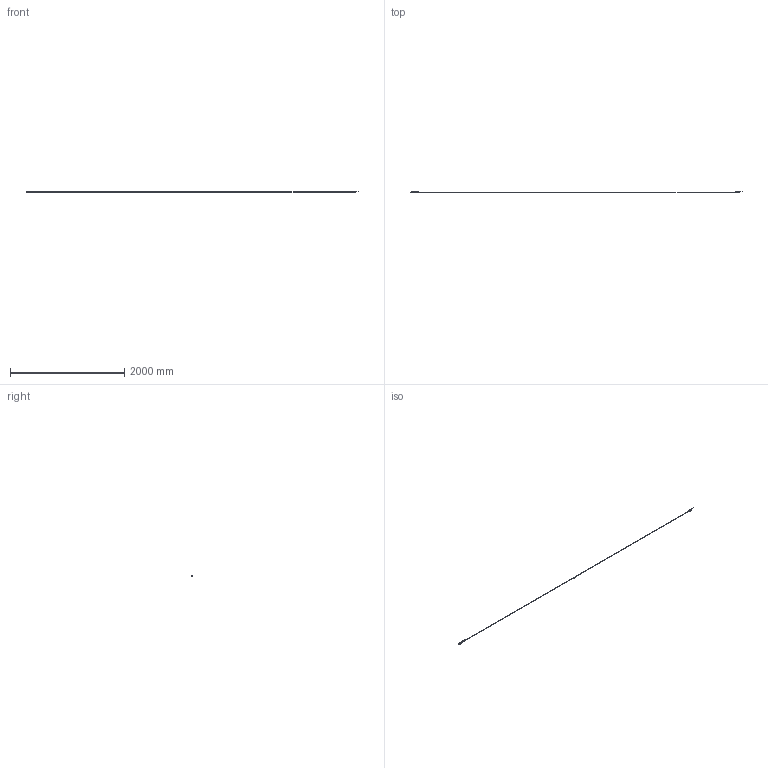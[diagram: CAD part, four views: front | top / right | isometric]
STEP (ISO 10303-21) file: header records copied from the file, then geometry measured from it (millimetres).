
FILE_DESCRIPTION(('Creo Elements/Direct Modeling STEP Export'),'2;1');
FILE_NAME('ITA-5670.stp','2025-01-30T 8:50:58',(''),(''),'Creo Elements/Direct Modeling STEP processor for AP214 (Solid Model)','Creo Elements/Direct Modeling 20.4A 18-Oct-2021 (C) Parametric Technology GmbH','');
FILE_SCHEMA(('AUTOMOTIVE_DESIGN { 1 0 10303 214 1 1 1 1 }'));
Length unit declared in the file: millimetre
Products named in the file (10): MAGNET_L1; MAGNET_L2; TAPE_5670; END_TAPE_1; END_TAPE_2; READING_HEAD_1; MAGNET_I0; READING_HEAD_2; ITA-5670; ITA-5670.stp
Assembly tree (9 placements, depth 3):
  ITA-5670.stp
    ITA-5670
      READING_HEAD_2
      MAGNET_I0
      READING_HEAD_1
      END_TAPE_2
      END_TAPE_1
      TAPE_5670
      MAGNET_L2
      MAGNET_L1
Bounding box: 5821.13 x 15.04 x 34.75 mm (x, y, z)
Volume: 56620.3 mm3; surface area: 135675.8 mm2
Topology: 8 solids, 8 shells, 1250 faces, 3426 edges, 2223 vertices
Faces by surface type: plane 908, cylinder 234, bspline 42, cone 32, torus 22, sphere 12
Entity records: 49159 total; most frequent: CARTESIAN_POINT 9935, ORIENTED_EDGE 6812, DIRECTION 6123, EDGE_CURVE 3406, VECTOR 2785, LINE 2785, VERTEX_POINT 2223, AXIS2_PLACEMENT_3D 1669
